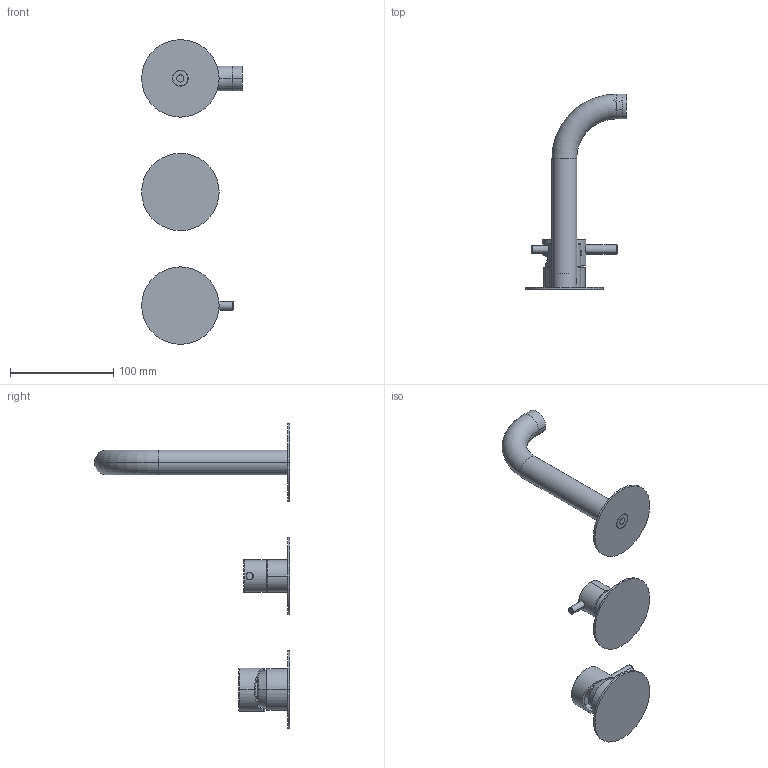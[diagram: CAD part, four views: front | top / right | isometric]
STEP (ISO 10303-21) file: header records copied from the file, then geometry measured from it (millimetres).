
FILE_DESCRIPTION((''),'2;1');
FILE_NAME('3D_SW0002','2024-10-02T11:34:51',('volponeff'),(''),'CREO PARAMETRIC BY PTC INC, 2022014','CREO PARAMETRIC BY PTC INC, 2022014','');
FILE_SCHEMA(('CONFIG_CONTROL_DESIGN'));
Length unit declared in the file: millimetre
Products named in the file (1): 3D_SW0002
Bounding box: 97.5 x 189 x 295 mm (x, y, z)
Volume: 157762.5 mm3; surface area: 89187.1 mm2
Topology: 3 solids, 3 shells, 368 faces, 933 edges, 584 vertices
Faces by surface type: plane 135, cylinder 126, cone 54, bspline 31, torus 20, sphere 2
Entity records: 27023 total; most frequent: CARTESIAN_POINT 18449, ORIENTED_EDGE 1854, DIRECTION 1663, EDGE_CURVE 927, AXIS2_PLACEMENT_3D 622, VERTEX_POINT 584, VECTOR 419, LINE 419
